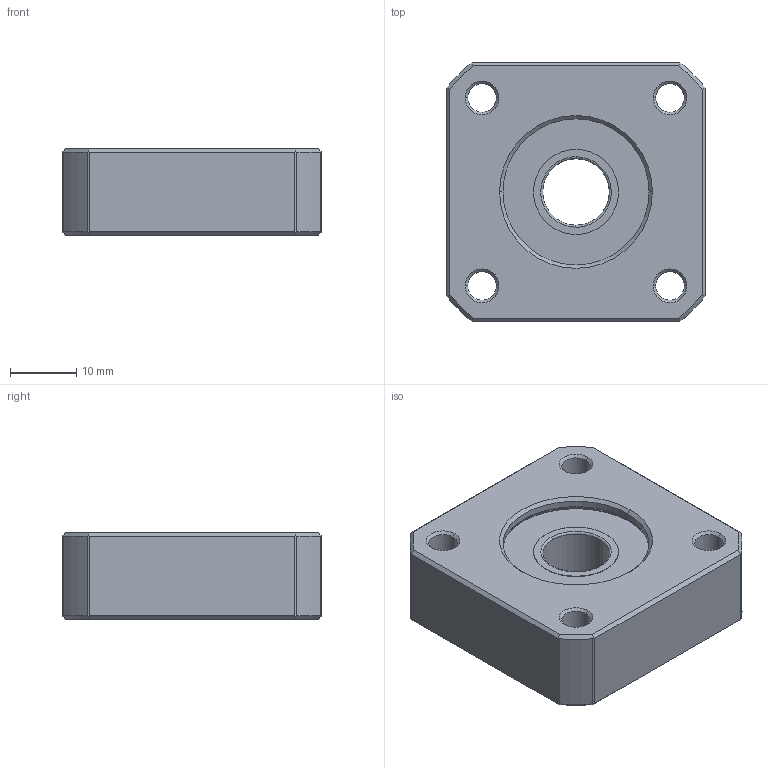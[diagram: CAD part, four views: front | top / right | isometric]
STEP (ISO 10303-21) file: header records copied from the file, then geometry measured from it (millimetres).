
FILE_DESCRIPTION (( 'STEP AP203' ), '1' );
FILE_NAME ('SBS10.STEP', '2009-05-27T05:32:41', ( '冠犁泅' ), ( '俺惯何' ), 'SwSTEP 2.0', 'SolidWorks 2007', '' );
FILE_SCHEMA (( 'CONFIG_CONTROL_DESIGN' ));
Length unit declared in the file: millimetre
Products named in the file (4): sbs10-housing_ル遽; SBS10; 6000zz_ル遽; retaining ring for bore RTW-26
Assembly tree (3 placements, depth 2):
  SBS10
    sbs10-housing_ル遽
    6000zz_ル遽
    retaining ring for bore RTW-26
Bounding box: 39 x 39 x 13 mm (x, y, z)
Volume: 11541 mm3; surface area: 10418.4 mm2
Topology: 2 solids, 15 shells, 178 faces, 445 edges, 272 vertices
Faces by surface type: cylinder 69, plane 45, bspline 34, cone 30
Entity records: 7219 total; most frequent: CARTESIAN_POINT 2799, DIRECTION 873, ORIENTED_EDGE 802, EDGE_CURVE 409, AXIS2_PLACEMENT_3D 363, VERTEX_POINT 272, CIRCLE 212, EDGE_LOOP 211
